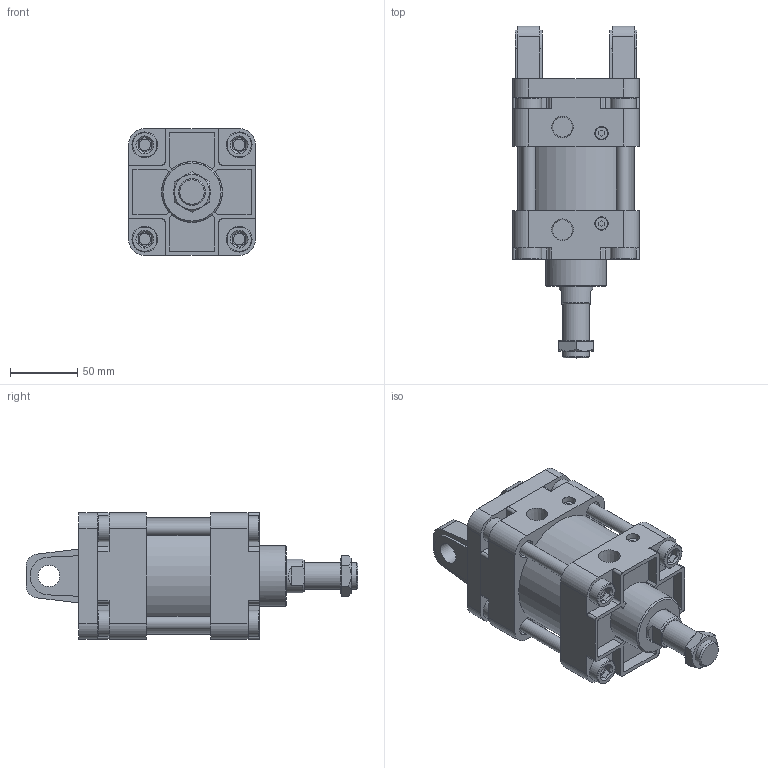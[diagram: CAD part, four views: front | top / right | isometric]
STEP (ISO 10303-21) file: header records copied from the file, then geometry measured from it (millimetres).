
FILE_DESCRIPTION(/* description */ ('Unknown'),/* implementation_level */ '2;1');
FILE_NAME(/* name */ 'WA80-0-CB',/* time_stamp */ '2026-07-17T16:55:31+08:00',/* author */ ('Unknown'),/* organization */ ('Unknown'),/* preprocessor_version */ 'ST-DEVELOPER v16.7',/* originating_system */ 'DEX',/* authorisation */ $);
FILE_SCHEMA (('CONFIG_CONTROL_DESIGN'));
Length unit declared in the file: millimetre
Products named in the file (8): WA80-0-CB; WA80_前; WA80_後; WA80_鋁; WA80_､ﾟｶbｬ｡_;m^XD}; M20-1.5P-8_螺; WA80_T帽牙e; WA80_CB
Assembly tree (10 placements, depth 2):
  WA80-0-CB
    WA80_前
    WA80_後
    WA80_鋁
    WA80_､ﾟｶbｬ｡_;m^XD}
    M20-1.5P-8_螺
    WA80_T帽牙e  x4
    WA80_CB
Bounding box: 94 x 246 x 94 mm (x, y, z)
Volume: 1026674.2 mm3; surface area: 204277.3 mm2
Topology: 10 solids, 10 shells, 423 faces, 1037 edges, 689 vertices
Faces by surface type: plane 251, cylinder 141, cone 23, torus 8
Full cylindrical faces by diameter (mm): 8.5 x8, 9 x2, 10 x6, 11 x4, 14 x12, 14.2 x4, 16 x2, 17 x4, 18.376 x1, 19 x8, 20 x1, 25 x2, 26 x1, 45 x1, 79.5 x1, 80 x3, 86 x1
Entity records: 11564 total; most frequent: CARTESIAN_POINT 1751, DIRECTION 1680, ORIENTED_EDGE 1524, EDGE_CURVE 762, AXIS2_PLACEMENT_3D 611, VERTEX_POINT 534, LINE 458, VECTOR 458
